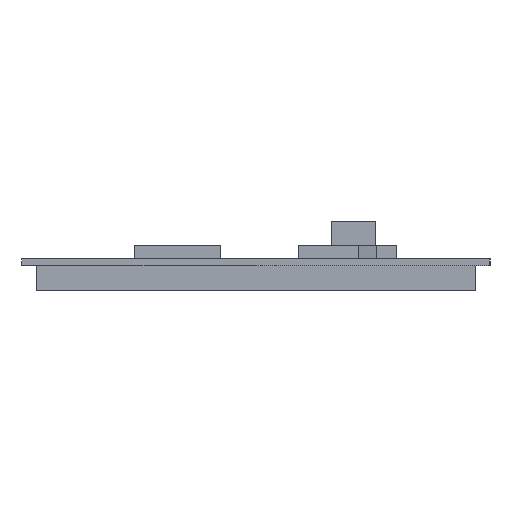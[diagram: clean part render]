
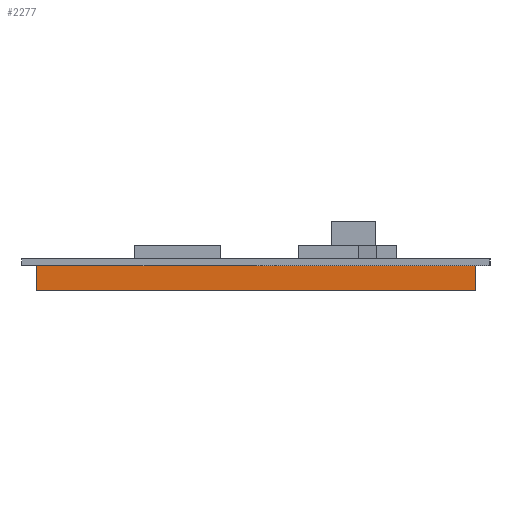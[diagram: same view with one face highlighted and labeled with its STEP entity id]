
A CAD part, left-side view. The second image highlights one B-rep face of the part: STEP entity #2277.
In plain terms, the highlighted planar face has unit normal (-1, 0, 0).
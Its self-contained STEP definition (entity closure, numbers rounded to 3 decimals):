
#500=DIRECTION('',(0.,1.,0.));
#501=VECTOR('',#500,5.011);
#502=CARTESIAN_POINT('',(596.821,461.841,-1.));
#503=LINE('',#502,#501);
#516=DIRECTION('',(0.,1.,0.));
#517=VECTOR('',#516,18.288);
#518=CARTESIAN_POINT('',(596.821,471.932,-1.));
#519=LINE('',#518,#517);
#532=DIRECTION('',(0.,1.,0.));
#533=VECTOR('',#532,22.352);
#534=CARTESIAN_POINT('',(596.821,495.3,-1.));
#535=LINE('',#534,#533);
#548=DIRECTION('',(0.,1.,0.));
#549=VECTOR('',#548,5.009);
#550=CARTESIAN_POINT('',(596.821,522.732,-1.));
#551=LINE('',#550,#549);
#650=DIRECTION('',(0.,0.,-1.));
#651=VECTOR('',#650,3.75);
#652=CARTESIAN_POINT('',(596.821,527.741,-1.));
#653=LINE('',#652,#651);
#654=DIRECTION('',(0.,0.,-1.));
#655=VECTOR('',#654,3.75);
#656=CARTESIAN_POINT('',(596.821,461.841,-1.));
#657=LINE('',#656,#655);
#670=DIRECTION('',(0.,1.,0.));
#671=VECTOR('',#670,65.9);
#672=CARTESIAN_POINT('',(596.821,461.841,-4.75));
#673=LINE('',#672,#671);
#762=DIRECTION('',(0.,1.,0.));
#763=VECTOR('',#762,5.08);
#764=CARTESIAN_POINT('',(596.821,466.852,-1.));
#765=LINE('',#764,#763);
#766=DIRECTION('',(0.,1.,0.));
#767=VECTOR('',#766,5.08);
#768=CARTESIAN_POINT('',(596.821,490.22,-1.));
#769=LINE('',#768,#767);
#770=DIRECTION('',(0.,1.,0.));
#771=VECTOR('',#770,5.08);
#772=CARTESIAN_POINT('',(596.821,517.652,-1.));
#773=LINE('',#772,#771);
#1436=CARTESIAN_POINT('',(596.821,461.841,-4.75));
#1437=VERTEX_POINT('',#1436);
#1438=CARTESIAN_POINT('',(596.821,527.741,-4.75));
#1439=VERTEX_POINT('',#1438);
#1467=CARTESIAN_POINT('',(596.821,461.841,-1.));
#1469=VERTEX_POINT('',#1467);
#1470=CARTESIAN_POINT('',(596.821,466.852,-1.));
#1471=VERTEX_POINT('',#1470);
#1472=CARTESIAN_POINT('',(596.821,471.932,-1.));
#1473=CARTESIAN_POINT('',(596.821,490.22,-1.));
#1474=VERTEX_POINT('',#1472);
#1475=VERTEX_POINT('',#1473);
#1476=CARTESIAN_POINT('',(596.821,495.3,-1.));
#1477=CARTESIAN_POINT('',(596.821,517.652,-1.));
#1478=VERTEX_POINT('',#1476);
#1479=VERTEX_POINT('',#1477);
#1480=CARTESIAN_POINT('',(596.821,522.732,-1.));
#1481=CARTESIAN_POINT('',(596.821,527.741,-1.));
#1482=VERTEX_POINT('',#1480);
#1483=VERTEX_POINT('',#1481);
#2255=CARTESIAN_POINT('',(596.821,461.841,-1.));
#2256=DIRECTION('',(-1.,0.,0.));
#2257=DIRECTION('',(0.,1.,0.));
#2258=AXIS2_PLACEMENT_3D('',#2255,#2256,#2257);
#2259=PLANE('',#2258);
#2260=ORIENTED_EDGE('',*,*,#1932,.F.);
#2262=ORIENTED_EDGE('',*,*,#2261,.T.);
#2264=ORIENTED_EDGE('',*,*,#2263,.T.);
#2265=ORIENTED_EDGE('',*,*,#2231,.F.);
#2266=ORIENTED_EDGE('',*,*,#1956,.F.);
#2268=ORIENTED_EDGE('',*,*,#2267,.F.);
#2269=ORIENTED_EDGE('',*,*,#1948,.F.);
#2271=ORIENTED_EDGE('',*,*,#2270,.F.);
#2272=ORIENTED_EDGE('',*,*,#1940,.F.);
#2274=ORIENTED_EDGE('',*,*,#2273,.F.);
#2275=EDGE_LOOP('',(#2260,#2262,#2264,#2265,#2266,#2268,#2269,#2271,#2272,
#2274));
#2276=FACE_OUTER_BOUND('',#2275,.F.);
#1932=EDGE_CURVE('',#1469,#1471,#503,.T.);
#1940=EDGE_CURVE('',#1474,#1475,#519,.T.);
#1948=EDGE_CURVE('',#1478,#1479,#535,.T.);
#1956=EDGE_CURVE('',#1482,#1483,#551,.T.);
#2231=EDGE_CURVE('',#1483,#1439,#653,.T.);
#2261=EDGE_CURVE('',#1469,#1437,#657,.T.);
#2263=EDGE_CURVE('',#1437,#1439,#673,.T.);
#2267=EDGE_CURVE('',#1479,#1482,#773,.T.);
#2270=EDGE_CURVE('',#1475,#1478,#769,.T.);
#2273=EDGE_CURVE('',#1471,#1474,#765,.T.);
#2277=ADVANCED_FACE('',(#2276),#2259,.T.);
